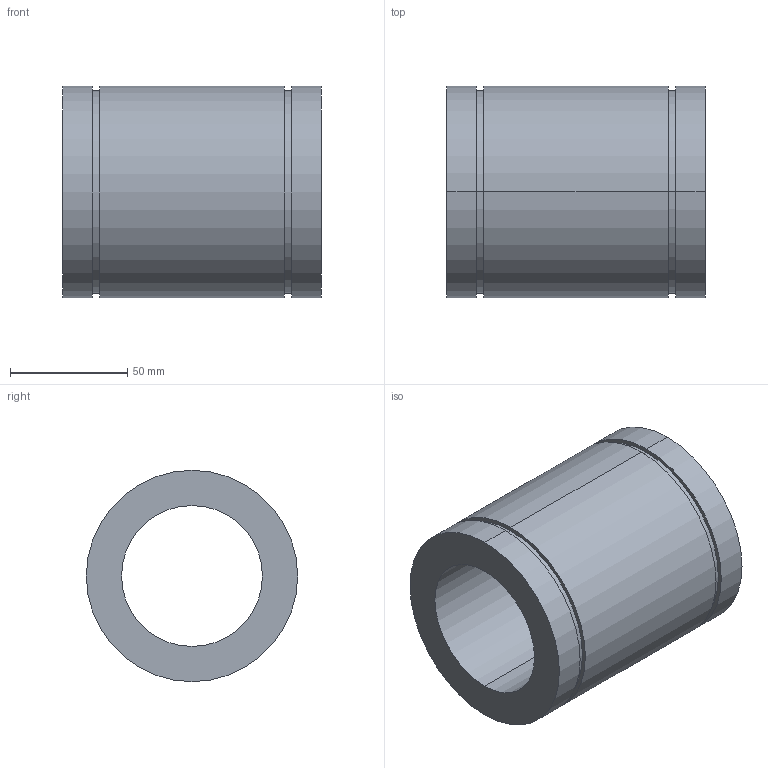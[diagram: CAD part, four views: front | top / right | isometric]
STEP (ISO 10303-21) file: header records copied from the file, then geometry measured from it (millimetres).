
FILE_DESCRIPTION (( 'STEP AP214' ), '1' );
FILE_NAME ('2.7016 Lineaarilaakeri LM60UU.STEP', '2024-06-17T07:55:18', ( '' ), ( '' ), 'SwSTEP 2.0', 'SolidWorks 2024', '' );
FILE_SCHEMA (( 'AUTOMOTIVE_DESIGN' ));
Length unit declared in the file: millimetre
Products named in the file (1): 2.7016 Lineaarilaakeri LM60UU
Bounding box: 110 x 90 x 90 mm (x, y, z)
Volume: 385715.5 mm3; surface area: 60776.3 mm2
Topology: 1 solids, 1 shells, 18 faces, 36 edges, 24 vertices
Faces by surface type: cylinder 12, plane 6
Entity records: 511 total; most frequent: DIRECTION 98, CARTESIAN_POINT 79, ORIENTED_EDGE 72, AXIS2_PLACEMENT_3D 43, EDGE_CURVE 36, VERTEX_POINT 24, CIRCLE 24, EDGE_LOOP 24
